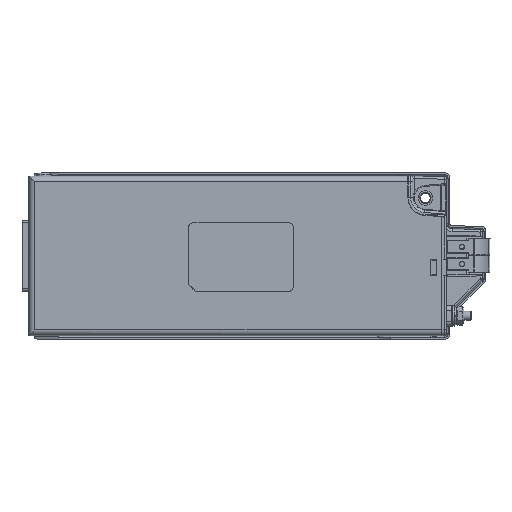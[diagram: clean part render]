
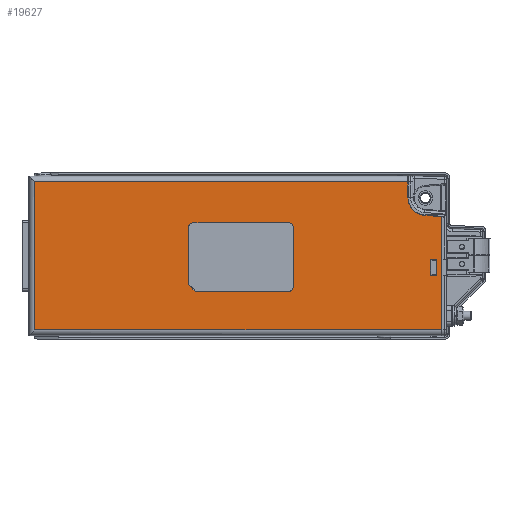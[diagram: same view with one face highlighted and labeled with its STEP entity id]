
A CAD part, top view. The second image highlights one B-rep face of the part: STEP entity #19627.
In plain terms, the highlighted planar face has unit normal (0, 0, 1).
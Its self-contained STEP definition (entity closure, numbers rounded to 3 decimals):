
#578=FACE_BOUND('',#3073,.T.);
#579=FACE_BOUND('',#3074,.T.);
#885=PLANE('',#21044);
#1956=FACE_OUTER_BOUND('',#3072,.T.);
#3072=EDGE_LOOP('',(#14862,#14863,#14864,#14865,#14866,#14867,#14868,#14869));
#3073=EDGE_LOOP('',(#14870,#14871,#14872,#14873));
#3074=EDGE_LOOP('',(#14874,#14875,#14876,#14877,#14878,#14879,#14880,#14881,
#14882,#14883));
#4634=LINE('',#30818,#6505);
#4637=LINE('',#30825,#6508);
#4648=LINE('',#30928,#6519);
#4649=LINE('',#30932,#6520);
#4650=LINE('',#30934,#6521);
#4651=LINE('',#30935,#6522);
#4652=LINE('',#30936,#6523);
#4653=LINE('',#30939,#6524);
#4654=LINE('',#30941,#6525);
#4655=LINE('',#30943,#6526);
#4656=LINE('',#30944,#6527);
#4657=LINE('',#30947,#6528);
#4658=LINE('',#30951,#6529);
#4659=LINE('',#30955,#6530);
#4660=LINE('',#30959,#6531);
#4661=LINE('',#30961,#6532);
#4662=LINE('',#30963,#6533);
#4663=LINE('',#30964,#6534);
#6505=VECTOR('',#24450,10.);
#6508=VECTOR('',#24457,10.);
#6519=VECTOR('',#24484,10.);
#6520=VECTOR('',#24487,10.);
#6521=VECTOR('',#24488,10.);
#6522=VECTOR('',#24489,10.);
#6523=VECTOR('',#24490,10.);
#6524=VECTOR('',#24491,10.);
#6525=VECTOR('',#24492,10.);
#6526=VECTOR('',#24493,10.);
#6527=VECTOR('',#24494,10.);
#6528=VECTOR('',#24495,10.);
#6529=VECTOR('',#24498,10.);
#6530=VECTOR('',#24501,10.);
#6531=VECTOR('',#24504,10.);
#6532=VECTOR('',#24505,10.);
#6533=VECTOR('',#24506,10.);
#6534=VECTOR('',#24507,10.);
#7707=CIRCLE('',#21037,7.7);
#7711=CIRCLE('',#21045,2.);
#7712=CIRCLE('',#21046,2.);
#7713=CIRCLE('',#21047,2.);
#8882=VERTEX_POINT('',#30815);
#8883=VERTEX_POINT('',#30817);
#8885=VERTEX_POINT('',#30823);
#8887=VERTEX_POINT('',#30838);
#8903=VERTEX_POINT('',#30926);
#8904=VERTEX_POINT('',#30930);
#8905=VERTEX_POINT('',#30931);
#8906=VERTEX_POINT('',#30933);
#8907=VERTEX_POINT('',#30937);
#8908=VERTEX_POINT('',#30938);
#8909=VERTEX_POINT('',#30940);
#8910=VERTEX_POINT('',#30942);
#8911=VERTEX_POINT('',#30945);
#8912=VERTEX_POINT('',#30946);
#8913=VERTEX_POINT('',#30948);
#8914=VERTEX_POINT('',#30950);
#8915=VERTEX_POINT('',#30952);
#8916=VERTEX_POINT('',#30954);
#8917=VERTEX_POINT('',#30956);
#8918=VERTEX_POINT('',#30958);
#8919=VERTEX_POINT('',#30960);
#8920=VERTEX_POINT('',#30962);
#11031=EDGE_CURVE('',#8882,#8883,#4634,.T.);
#11035=EDGE_CURVE('',#8882,#8885,#4637,.T.);
#11038=EDGE_CURVE('',#8885,#8887,#7707,.T.);
#11055=EDGE_CURVE('',#8887,#8903,#4648,.T.);
#11056=EDGE_CURVE('',#8904,#8905,#4649,.T.);
#11057=EDGE_CURVE('',#8905,#8906,#4650,.T.);
#11058=EDGE_CURVE('',#8883,#8906,#4651,.T.);
#11059=EDGE_CURVE('',#8903,#8904,#4652,.T.);
#11060=EDGE_CURVE('',#8907,#8908,#4653,.T.);
#11061=EDGE_CURVE('',#8908,#8909,#4654,.T.);
#11062=EDGE_CURVE('',#8909,#8910,#4655,.T.);
#11063=EDGE_CURVE('',#8910,#8907,#4656,.T.);
#11064=EDGE_CURVE('',#8911,#8912,#4657,.T.);
#11065=EDGE_CURVE('',#8913,#8911,#7711,.T.);
#11066=EDGE_CURVE('',#8914,#8913,#4658,.T.);
#11067=EDGE_CURVE('',#8915,#8914,#7712,.T.);
#11068=EDGE_CURVE('',#8916,#8915,#4659,.T.);
#11069=EDGE_CURVE('',#8917,#8916,#7713,.T.);
#11070=EDGE_CURVE('',#8918,#8917,#4660,.T.);
#11071=EDGE_CURVE('',#8919,#8918,#4661,.T.);
#11072=EDGE_CURVE('',#8920,#8919,#4662,.T.);
#11073=EDGE_CURVE('',#8912,#8920,#4663,.T.);
#14862=ORIENTED_EDGE('',*,*,#11056,.T.);
#14863=ORIENTED_EDGE('',*,*,#11057,.T.);
#14864=ORIENTED_EDGE('',*,*,#11058,.F.);
#14865=ORIENTED_EDGE('',*,*,#11031,.F.);
#14866=ORIENTED_EDGE('',*,*,#11035,.T.);
#14867=ORIENTED_EDGE('',*,*,#11038,.T.);
#14868=ORIENTED_EDGE('',*,*,#11055,.T.);
#14869=ORIENTED_EDGE('',*,*,#11059,.T.);
#14870=ORIENTED_EDGE('',*,*,#11060,.T.);
#14871=ORIENTED_EDGE('',*,*,#11061,.T.);
#14872=ORIENTED_EDGE('',*,*,#11062,.T.);
#14873=ORIENTED_EDGE('',*,*,#11063,.T.);
#14874=ORIENTED_EDGE('',*,*,#11064,.F.);
#14875=ORIENTED_EDGE('',*,*,#11065,.F.);
#14876=ORIENTED_EDGE('',*,*,#11066,.F.);
#14877=ORIENTED_EDGE('',*,*,#11067,.F.);
#14878=ORIENTED_EDGE('',*,*,#11068,.F.);
#14879=ORIENTED_EDGE('',*,*,#11069,.F.);
#14880=ORIENTED_EDGE('',*,*,#11070,.F.);
#14881=ORIENTED_EDGE('',*,*,#11071,.F.);
#14882=ORIENTED_EDGE('',*,*,#11072,.F.);
#14883=ORIENTED_EDGE('',*,*,#11073,.F.);
#19627=ADVANCED_FACE('',(#1956,#578,#579),#885,.T.);
#21037=AXIS2_PLACEMENT_3D('',#30840,#24461,#24462);
#21044=AXIS2_PLACEMENT_3D('',#30929,#24485,#24486);
#21045=AXIS2_PLACEMENT_3D('',#30949,#24496,#24497);
#21046=AXIS2_PLACEMENT_3D('',#30953,#24499,#24500);
#21047=AXIS2_PLACEMENT_3D('',#30957,#24502,#24503);
#24450=DIRECTION('',(0.676,-0.737,0.));
#24457=DIRECTION('',(-0.996,0.087,0.));
#24461=DIRECTION('center_axis',(0.,0.,
-1.));
#24462=DIRECTION('ref_axis',(-1.,0.,0.));
#24484=DIRECTION('',(0.,1.,0.));
#24485=DIRECTION('center_axis',(0.,0.,
1.));
#24486=DIRECTION('ref_axis',(0.,-1.,0.));
#24487=DIRECTION('',(0.,-1.,0.));
#24488=DIRECTION('',(1.,0.,0.));
#24489=DIRECTION('',(0.,-1.,0.));
#24490=DIRECTION('',(-1.,0.,0.));
#24491=DIRECTION('',(-1.,0.,0.));
#24492=DIRECTION('',(0.,1.,0.));
#24493=DIRECTION('',(1.,0.,0.));
#24494=DIRECTION('',(0.,-1.,0.));
#24495=DIRECTION('',(0.,-1.,0.));
#24496=DIRECTION('center_axis',(0.,0.,
1.));
#24497=DIRECTION('ref_axis',(-0.707,0.707,0.));
#24498=DIRECTION('',(-1.,0.,0.));
#24499=DIRECTION('center_axis',(0.,0.,
1.));
#24500=DIRECTION('ref_axis',(0.707,0.707,0.));
#24501=DIRECTION('',(0.,1.,0.));
#24502=DIRECTION('center_axis',(0.,0.,
1.));
#24503=DIRECTION('ref_axis',(0.707,-0.707,0.));
#24504=DIRECTION('',(1.,0.,0.));
#24505=DIRECTION('',(0.707,-0.707,0.));
#24506=DIRECTION('',(0.707,-0.707,0.));
#24507=DIRECTION('',(0.,-1.,0.));
#30815=CARTESIAN_POINT('',(90.502,17.202,34.9));
#30817=CARTESIAN_POINT('',(91.,16.658,34.9));
#30818=CARTESIAN_POINT('',(74.371,34.805,34.9));
#30823=CARTESIAN_POINT('',(83.329,17.829,34.9));
#30825=CARTESIAN_POINT('',(46.839,21.022,34.9));
#30838=CARTESIAN_POINT('',(76.3,25.5,34.9));
#30840=CARTESIAN_POINT('Origin',(84.,25.5,34.9));
#30926=CARTESIAN_POINT('',(76.3,32.5,34.9));
#30928=CARTESIAN_POINT('',(76.3,12.75,34.9));
#30929=CARTESIAN_POINT('Origin',(0.5,0.,
34.9));
#30930=CARTESIAN_POINT('',(-87.5,32.5,34.9));
#30931=CARTESIAN_POINT('',(-87.5,-32.5,34.9));
#30932=CARTESIAN_POINT('',(-87.5,-16.25,34.9));
#30933=CARTESIAN_POINT('',(91.,-32.5,34.9));
#30934=CARTESIAN_POINT('',(-44.75,-32.5,34.9));
#30935=CARTESIAN_POINT('',(91.,35.,34.9));
#30936=CARTESIAN_POINT('',(45.75,32.5,34.9));
#30937=CARTESIAN_POINT('',(89.,-8.5,34.9));
#30938=CARTESIAN_POINT('',(86.,-8.5,34.9));
#30939=CARTESIAN_POINT('',(44.75,-8.5,34.9));
#30940=CARTESIAN_POINT('',(86.,-1.5,34.9));
#30941=CARTESIAN_POINT('',(86.,-4.25,34.9));
#30942=CARTESIAN_POINT('',(89.,-1.5,34.9));
#30943=CARTESIAN_POINT('',(43.25,-1.5,34.9));
#30944=CARTESIAN_POINT('',(89.,-0.75,34.9));
#30945=CARTESIAN_POINT('',(-20.,12.475,34.9));
#30946=CARTESIAN_POINT('',(-20.,-9.025,34.9));
#30947=CARTESIAN_POINT('',(-20.,14.475,34.9));
#30948=CARTESIAN_POINT('',(-18.,14.475,34.9));
#30949=CARTESIAN_POINT('Origin',(-18.,12.475,34.9));
#30950=CARTESIAN_POINT('',(24.,14.475,34.9));
#30951=CARTESIAN_POINT('',(26.,14.475,34.9));
#30952=CARTESIAN_POINT('',(26.,12.475,34.9));
#30953=CARTESIAN_POINT('Origin',(24.,12.475,34.9));
#30954=CARTESIAN_POINT('',(26.,-13.525,34.9));
#30955=CARTESIAN_POINT('',(26.,-15.525,34.9));
#30956=CARTESIAN_POINT('',(24.,-15.525,34.9));
#30957=CARTESIAN_POINT('Origin',(24.,-13.525,34.9));
#30958=CARTESIAN_POINT('',(-17.,-15.525,34.9));
#30959=CARTESIAN_POINT('',(-20.,-15.525,34.9));
#30960=CARTESIAN_POINT('',(-17.525,-15.,34.9));
#30961=CARTESIAN_POINT('',(-16.5,-16.025,34.9));
#30962=CARTESIAN_POINT('',(-20.,-12.525,34.9));
#30963=CARTESIAN_POINT('',(-16.5,-16.025,34.9));
#30964=CARTESIAN_POINT('',(-20.,14.475,34.9));
